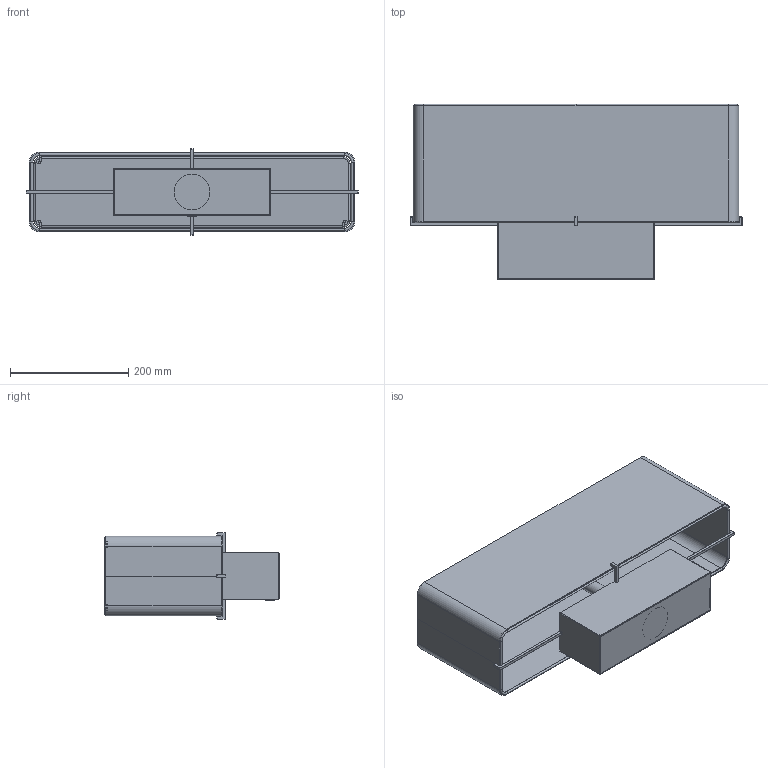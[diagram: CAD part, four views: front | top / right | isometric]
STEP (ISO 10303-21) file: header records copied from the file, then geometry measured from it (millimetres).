
FILE_DESCRIPTION (( 'STEP AP214' ), '1' );
FILE_NAME ('NONNA H30 table lamp.STEP', '2025-10-01T08:33:42', ( '' ), ( '' ), 'SwSTEP 2.0', 'SolidWorks 2024', '' );
FILE_SCHEMA (( 'AUTOMOTIVE_DESIGN' ));
Length unit declared in the file: millimetre
Products named in the file (12): decorate nut; bracket 1; frame; lamp cup; base; Cap_默认; bracket 2; NONNA H30 table lamp; shade and shade cover; connector; Smooth lampholder E27_默认; fabric pad
Assembly tree (15 placements, depth 2):
  NONNA H30 table lamp
    base
    shade and shade cover
    bracket 1  x2
    bracket 2  x2
    fabric pad
    frame
    lamp cup  x2
    Smooth lampholder E27_默认  x2
    Cap_默认
    connector
    decorate nut
Bounding box: 561 x 296 x 146 mm (x, y, z)
Volume: 2487105.5 mm3; surface area: 998432.4 mm2
Topology: 33 solids, 33 shells, 1406 faces, 3685 edges, 2357 vertices
Faces by surface type: plane 718, cylinder 531, cone 83, torus 49, bspline 25
Entity records: 42431 total; most frequent: CARTESIAN_POINT 18024, ORIENTED_EDGE 5198, DIRECTION 4813, EDGE_CURVE 2599, VERTEX_POINT 1664, AXIS2_PLACEMENT_3D 1651, VECTOR 1511, LINE 1511
